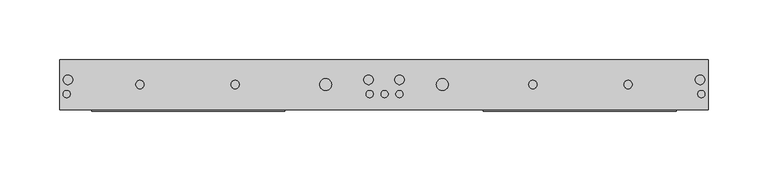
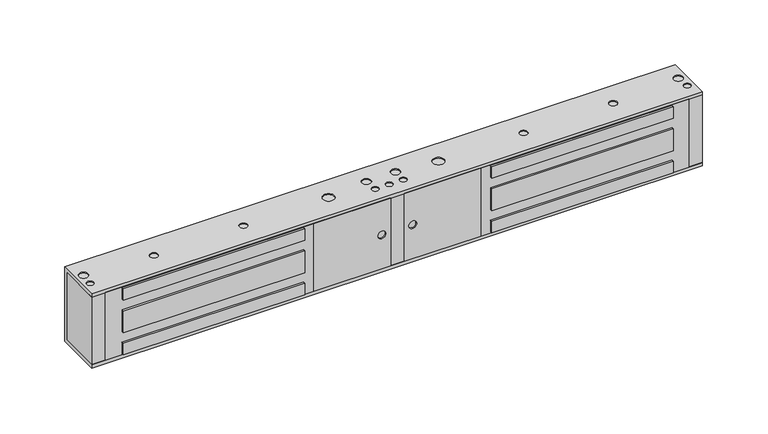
"""IFC4 building model written with IfcOpenShell, lengths in millimetres: proxy geometry, Электромагнитный_замок_ML-395_Double_с_планкой_AccordTec_R19 : Электромагнитный_замок_ML-395_Double_с_планкой_AccordTec_R19."""

from ifc_helpers import new_model, si_unit, point, frame, frame_2d, origin, place, context, project, spatial, polyline, circle_curve, trimmed, segment, composite_curve, outline, extrude, source, transform, mapped, element, save
from ifc_brep_helpers import plane_surface, revolved_surface, advanced_brep


def generic_models_6a58f8de(model_context):
    return source(origin(), model_context, "Body", "SolidModel", [
        extrude(outline(polyline([(67.0, 266.7), (67.0, 198.0), (3.0, 198.0), (3.0, 266.7), (67.0, 266.7)]), holes=[composite_curve([segment(trimmed(circle_curve(frame_2d((35.0, 258.95)), 3.5), [point((35.0, 262.45))], [point((35.0, 255.45))], True, "CARTESIAN"), True, "CONTINUOUS"), segment(trimmed(circle_curve(frame_2d((35.0, 258.95)), 3.5), [point((35.0, 255.45))], [point((35.0, 262.45))], True, "CARTESIAN"), True, "CONTINUOUS")], self_intersect=False)]), frame((0.0, 0.0, 0.0), z_axis=(0.0, 1.0, 0.0), x_axis=(0.0, 0.0, 1.0)), (0.0, 0.0, 1.0), 1.0),
        extrude(outline(polyline([(67.0, 347.0), (67.0, 278.7), (3.0, 278.7), (3.0, 347.0), (67.0, 347.0)]), holes=[composite_curve([segment(trimmed(circle_curve(frame_2d((35.0, 286.45)), 3.5), [point((35.0, 289.95))], [point((35.0, 282.95))], True, "CARTESIAN"), True, "CONTINUOUS"), segment(trimmed(circle_curve(frame_2d((35.0, 286.45)), 3.5), [point((35.0, 282.95))], [point((35.0, 289.95))], True, "CARTESIAN"), True, "CONTINUOUS")], self_intersect=False)]), frame((0.0, 0.0, 0.0), z_axis=(0.0, 1.0, 0.0), x_axis=(0.0, 0.0, 1.0)), (0.0, 0.0, 1.0), 1.0),
        extrude(outline(polyline([(189.0, -1.5), (27.0, -1.5), (27.0, 1.0), (189.0, 1.0), (189.0, -1.5)])), frame((0.0, 0.0, 55.25), z_axis=(0.0, 0.0, 1.0), x_axis=(1.0, 0.0, 0.0)), (0.0, 0.0, 1.0), 11.0),
        extrude(outline(polyline([(189.0, -1.5), (27.0, -1.5), (27.0, 1.0), (189.0, 1.0), (189.0, -1.5)])), frame((0.0, 0.0, 24.75), z_axis=(0.0, 0.0, 1.0), x_axis=(1.0, 0.0, 0.0)), (0.0, 0.0, 1.0), 20.5),
        extrude(outline(polyline([(189.0, -1.5), (27.0, -1.5), (27.0, 1.0), (189.0, 1.0), (189.0, -1.5)])), frame((0.0, 0.0, 3.75), z_axis=(0.0, 0.0, 1.0), x_axis=(1.0, 0.0, 0.0)), (0.0, 0.0, 1.0), 11.0),
        extrude(outline(polyline([(518.0, -1.5), (356.0, -1.5), (356.0, 1.0), (518.0, 1.0), (518.0, -1.5)])), frame((0.0, 0.0, 55.25), z_axis=(0.0, 0.0, 1.0), x_axis=(1.0, 0.0, 0.0)), (0.0, 0.0, 1.0), 11.0),
        extrude(outline(polyline([(518.0, -1.5), (356.0, -1.5), (356.0, 1.0), (518.0, 1.0), (518.0, -1.5)])), frame((0.0, 0.0, 24.75), z_axis=(0.0, 0.0, 1.0), x_axis=(1.0, 0.0, 0.0)), (0.0, 0.0, 1.0), 20.5),
        extrude(outline(polyline([(518.0, -1.5), (356.0, -1.5), (356.0, 1.0), (518.0, 1.0), (518.0, -1.5)])), frame((0.0, 0.0, 3.75), z_axis=(0.0, 0.0, 1.0), x_axis=(1.0, 0.0, 0.0)), (0.0, 0.0, 1.0), 11.0),
        extrude(outline(polyline([(67.0, 198.0), (67.0, 12.0), (3.0, 12.0), (3.0, 198.0), (67.0, 198.0)]), holes=[polyline([(66.25, 27.0), (66.25, 189.0), (55.25, 189.0), (55.25, 27.0), (66.25, 27.0)]), polyline([(45.25, 27.0), (45.25, 189.0), (24.75, 189.0), (24.75, 27.0), (45.25, 27.0)]), polyline([(14.75, 27.0), (14.75, 189.0), (3.75, 189.0), (3.75, 27.0), (14.75, 27.0)])]), frame((0.0, 0.0, 0.0), z_axis=(0.0, 1.0, 0.0), x_axis=(0.0, 0.0, 1.0)), (0.0, 0.0, 1.0), 1.0),
        extrude(outline(polyline([(67.0, 533.0), (67.0, 347.0), (3.0, 347.0), (3.0, 533.0), (67.0, 533.0)]), holes=[polyline([(66.25, 356.0), (66.25, 518.0), (55.25, 518.0), (55.25, 356.0), (66.25, 356.0)]), polyline([(24.75, 356.0), (45.25, 356.0), (45.25, 518.0), (24.75, 518.0), (24.75, 356.0)]), polyline([(14.75, 356.0), (14.75, 518.0), (3.75, 518.0), (3.75, 356.0), (14.75, 356.0)])]), frame((0.0, 0.0, 0.0), z_axis=(0.0, 1.0, 0.0), x_axis=(0.0, 0.0, 1.0)), (0.0, 0.0, 1.0), 1.0),
        advanced_brep(
        [(545.0, 0.0, 0.0), (545.0, 42.0, 0.0), (545.0, 42.0, 70.0), (545.0, 0.0, 70.0), (545.0, 0.0, 67.0), (545.0, 39.0, 67.0), (545.0, 39.0, 3.0), (545.0, 0.0, 3.0), (0.0, 0.0, 0.0), (0.0, 0.0, 3.0), (0.0, 39.0, 3.0), (0.0, 39.0, 67.0), (0.0, 0.0, 67.0), (0.0, 0.0, 70.0), (0.0, 42.0, 70.0), (0.0, 42.0, 0.0), (3.0, 25.0, 0.0), (11.0, 25.0, 0.0), (4.0, 8.5, 0.0), (10.0, 8.5, 0.0), (64.0, 21.0, 0.0), (71.0, 21.0, 0.0), (144.0, 21.0, 0.0), (151.0, 21.0, 0.0), (220.5, 21.0, 0.0), (226.5, 21.0, 0.0), (257.5, 13.0, 0.0), (263.5, 13.0, 0.0), (270.0, 13.0, 0.0), (276.0, 13.0, 0.0), (282.5, 13.0, 0.0), (288.5, 13.0, 0.0), (255.5, 25.0, 0.0), (263.5, 25.0, 0.0), (281.5, 25.0, 0.0), (289.5, 25.0, 0.0), (318.5, 21.0, 0.0), (324.5, 21.0, 0.0), (394.0, 21.0, 0.0), (401.0, 21.0, 0.0), (474.0, 21.0, 0.0), (481.0, 21.0, 0.0), (534.0, 25.0, 0.0), (542.0, 25.0, 0.0), (535.0, 8.5, 0.0), (541.0, 8.5, 0.0), (144.0, 21.0, 70.0), (151.0, 21.0, 70.0), (218.5, 21.0, 70.0), (228.5, 21.0, 70.0), (255.5, 25.0, 70.0), (263.5, 25.0, 70.0), (257.5, 13.0, 70.0), (263.5, 13.0, 70.0), (270.0, 13.0, 70.0), (276.0, 13.0, 70.0), (281.5, 25.0, 70.0), (289.5, 25.0, 70.0), (282.5, 13.0, 70.0), (288.5, 13.0, 70.0), (316.5, 21.0, 70.0), (326.5, 21.0, 70.0), (394.0, 21.0, 70.0), (401.0, 21.0, 70.0), (474.0, 21.0, 70.0), (481.0, 21.0, 70.0), (536.0, 13.0, 70.0), (542.0, 13.0, 70.0), (534.0, 25.0, 70.0), (542.0, 25.0, 70.0), (64.0, 21.0, 70.0), (71.0, 21.0, 70.0), (3.0, 25.0, 70.0), (11.0, 25.0, 70.0), (3.0, 13.0, 70.0), (9.0, 13.0, 70.0), (12.0, 0.0, 67.0), (198.0, 0.0, 67.0), (266.7, 0.0, 67.0), (278.7, 0.0, 67.0), (347.0, 0.0, 67.0), (533.0, 0.0, 67.0), (12.0, 0.0, 3.0), (198.0, 0.0, 3.0), (266.7, 0.0, 3.0), (278.7, 0.0, 3.0), (347.0, 0.0, 3.0), (533.0, 0.0, 3.0), (3.0, 25.0, 1.0), (11.0, 25.0, 1.0), (4.0, 8.5, 1.0), (10.0, 8.5, 1.0), (64.0, 21.0, 1.0), (71.0, 21.0, 1.0), (144.0, 21.0, 1.0), (151.0, 21.0, 1.0), (220.5, 21.0, 1.0), (226.5, 21.0, 1.0), (257.5, 13.0, 1.0), (263.5, 13.0, 1.0), (270.0, 13.0, 1.0), (276.0, 13.0, 1.0), (282.5, 13.0, 1.0), (288.5, 13.0, 1.0), (255.5, 25.0, 1.0), (263.5, 25.0, 1.0), (281.5, 25.0, 1.0), (289.5, 25.0, 1.0), (318.5, 21.0, 1.0), (324.5, 21.0, 1.0), (394.0, 21.0, 1.0), (401.0, 21.0, 1.0), (474.0, 21.0, 1.0), (481.0, 21.0, 1.0), (534.0, 25.0, 1.0), (542.0, 25.0, 1.0), (535.0, 8.5, 1.0), (541.0, 8.5, 1.0), (144.0, 21.0, 69.0), (151.0, 21.0, 69.0), (218.5, 21.0, 69.0), (228.5, 21.0, 69.0), (255.5, 25.0, 69.0), (263.5, 25.0, 69.0), (257.5, 13.0, 69.0), (263.5, 13.0, 69.0), (270.0, 13.0, 69.0), (276.0, 13.0, 69.0), (281.5, 25.0, 69.0), (289.5, 25.0, 69.0), (282.5, 13.0, 69.0), (288.5, 13.0, 69.0), (316.5, 21.0, 69.0), (326.5, 21.0, 69.0), (394.0, 21.0, 69.0), (401.0, 21.0, 69.0), (474.0, 21.0, 69.0), (481.0, 21.0, 69.0), (536.0, 13.0, 69.0), (542.0, 13.0, 69.0), (534.0, 25.0, 69.0), (542.0, 25.0, 69.0), (64.0, 21.0, 69.0), (71.0, 21.0, 69.0), (3.0, 25.0, 69.0), (11.0, 25.0, 69.0), (3.0, 13.0, 69.0), (9.0, 13.0, 69.0)],
        [
            (0, 1),
            (1, 2),
            (2, 3),
            (3, 4),
            (4, 5),
            (5, 6),
            (6, 7),
            (7, 0),
            (8, 9),
            (9, 10),
            (10, 11),
            (11, 12),
            (12, 13),
            (13, 14),
            (14, 15),
            (15, 8),
            (0, 8),
            (15, 1),
            (16, 17, circle_curve(frame((7.0, 25.0, 0.0), z_axis=(0.0, 0.0, 1.0), x_axis=(1.0, 0.0, 0.0)), 4.0)),
            (17, 16, circle_curve(frame((7.0, 25.0, 0.0), z_axis=(0.0, 0.0, 1.0), x_axis=(1.0, 0.0, 0.0)), 4.0)),
            (18, 19, circle_curve(frame((7.0, 8.5, 0.0), z_axis=(0.0, 0.0, 1.0), x_axis=(1.0, 0.0, 0.0)), 3.0)),
            (19, 18, circle_curve(frame((7.0, 8.5, 0.0), z_axis=(0.0, 0.0, 1.0), x_axis=(1.0, 0.0, 0.0)), 3.0)),
            (20, 21, circle_curve(frame((67.5, 21.0, 0.0), z_axis=(0.0, 0.0, 1.0), x_axis=(1.0, 0.0, 0.0)), 3.5)),
            (21, 20, circle_curve(frame((67.5, 21.0, 0.0), z_axis=(0.0, 0.0, 1.0), x_axis=(1.0, 0.0, 0.0)), 3.5)),
            (22, 23, circle_curve(frame((147.5, 21.0, 0.0), z_axis=(0.0, 0.0, 1.0), x_axis=(1.0, 0.0, 0.0)), 3.5)),
            (23, 22, circle_curve(frame((147.5, 21.0, 0.0), z_axis=(0.0, 0.0, 1.0), x_axis=(1.0, 0.0, 0.0)), 3.5)),
            (24, 25, circle_curve(frame((223.5, 21.0, 0.0), z_axis=(0.0, 0.0, 1.0), x_axis=(1.0, 0.0, 0.0)), 3.0)),
            (25, 24, circle_curve(frame((223.5, 21.0, 0.0), z_axis=(0.0, 0.0, 1.0), x_axis=(1.0, 0.0, 0.0)), 3.0)),
            (26, 27, circle_curve(frame((260.5, 13.0, 0.0), z_axis=(0.0, 0.0, 1.0), x_axis=(1.0, 0.0, 0.0)), 3.0)),
            (27, 26, circle_curve(frame((260.5, 13.0, 0.0), z_axis=(0.0, 0.0, 1.0), x_axis=(1.0, 0.0, 0.0)), 3.0)),
            (28, 29, circle_curve(frame((273.0, 13.0, 0.0), z_axis=(0.0, 0.0, 1.0), x_axis=(1.0, 0.0, 0.0)), 3.0)),
            (29, 28, circle_curve(frame((273.0, 13.0, 0.0), z_axis=(0.0, 0.0, 1.0), x_axis=(1.0, 0.0, 0.0)), 3.0)),
            (30, 31, circle_curve(frame((285.5, 13.0, 0.0), z_axis=(0.0, 0.0, 1.0), x_axis=(1.0, 0.0, 0.0)), 3.0)),
            (31, 30, circle_curve(frame((285.5, 13.0, 0.0), z_axis=(0.0, 0.0, 1.0), x_axis=(1.0, 0.0, 0.0)), 3.0)),
            (32, 33, circle_curve(frame((259.5, 25.0, 0.0), z_axis=(0.0, 0.0, 1.0), x_axis=(1.0, 0.0, 0.0)), 4.0)),
            (33, 32, circle_curve(frame((259.5, 25.0, 0.0), z_axis=(0.0, 0.0, 1.0), x_axis=(1.0, 0.0, 0.0)), 4.0)),
            (34, 35, circle_curve(frame((285.5, 25.0, 0.0), z_axis=(0.0, 0.0, 1.0), x_axis=(1.0, 0.0, 0.0)), 4.0)),
            (35, 34, circle_curve(frame((285.5, 25.0, 0.0), z_axis=(0.0, 0.0, 1.0), x_axis=(1.0, 0.0, 0.0)), 4.0)),
            (36, 37, circle_curve(frame((321.5, 21.0, 0.0), z_axis=(0.0, 0.0, 1.0), x_axis=(1.0, 0.0, 0.0)), 3.0)),
            (37, 36, circle_curve(frame((321.5, 21.0, 0.0), z_axis=(0.0, 0.0, 1.0), x_axis=(1.0, 0.0, 0.0)), 3.0)),
            (38, 39, circle_curve(frame((397.5, 21.0, 0.0), z_axis=(0.0, 0.0, 1.0), x_axis=(1.0, 0.0, 0.0)), 3.5)),
            (39, 38, circle_curve(frame((397.5, 21.0, 0.0), z_axis=(0.0, 0.0, 1.0), x_axis=(1.0, 0.0, 0.0)), 3.5)),
            (40, 41, circle_curve(frame((477.5, 21.0, 0.0), z_axis=(0.0, 0.0, 1.0), x_axis=(1.0, 0.0, 0.0)), 3.5)),
            (41, 40, circle_curve(frame((477.5, 21.0, 0.0), z_axis=(0.0, 0.0, 1.0), x_axis=(1.0, 0.0, 0.0)), 3.5)),
            (42, 43, circle_curve(frame((538.0, 25.0, 0.0), z_axis=(0.0, 0.0, 1.0), x_axis=(1.0, 0.0, 0.0)), 4.0)),
            (43, 42, circle_curve(frame((538.0, 25.0, 0.0), z_axis=(0.0, 0.0, 1.0), x_axis=(1.0, 0.0, 0.0)), 4.0)),
            (44, 45, circle_curve(frame((538.0, 8.5, 0.0), z_axis=(0.0, 0.0, 1.0), x_axis=(1.0, 0.0, 0.0)), 3.0)),
            (45, 44, circle_curve(frame((538.0, 8.5, 0.0), z_axis=(0.0, 0.0, 1.0), x_axis=(1.0, 0.0, 0.0)), 3.0)),
            (14, 2),
            (13, 3),
            (46, 47, circle_curve(frame((147.5, 21.0, 70.0), z_axis=(0.0, 0.0, -1.0), x_axis=(1.0, 0.0, 0.0)), 3.5)),
            (47, 46, circle_curve(frame((147.5, 21.0, 70.0), z_axis=(0.0, 0.0, -1.0), x_axis=(1.0, 0.0, 0.0)), 3.5)),
            (48, 49, circle_curve(frame((223.5, 21.0, 70.0), z_axis=(0.0, 0.0, -1.0), x_axis=(1.0, 0.0, 0.0)), 5.0)),
            (49, 48, circle_curve(frame((223.5, 21.0, 70.0), z_axis=(0.0, 0.0, -1.0), x_axis=(1.0, 0.0, 0.0)), 5.0)),
            (50, 51, circle_curve(frame((259.5, 25.0, 70.0), z_axis=(0.0, 0.0, -1.0), x_axis=(1.0, 0.0, 0.0)), 4.0)),
            (51, 50, circle_curve(frame((259.5, 25.0, 70.0), z_axis=(0.0, 0.0, -1.0), x_axis=(1.0, 0.0, 0.0)), 4.0)),
            (52, 53, circle_curve(frame((260.5, 13.0, 70.0), z_axis=(0.0, 0.0, -1.0), x_axis=(1.0, 0.0, 0.0)), 3.0)),
            (53, 52, circle_curve(frame((260.5, 13.0, 70.0), z_axis=(0.0, 0.0, -1.0), x_axis=(1.0, 0.0, 0.0)), 3.0)),
            (54, 55, circle_curve(frame((273.0, 13.0, 70.0), z_axis=(0.0, 0.0, -1.0), x_axis=(1.0, 0.0, 0.0)), 3.0)),
            (55, 54, circle_curve(frame((273.0, 13.0, 70.0), z_axis=(0.0, 0.0, -1.0), x_axis=(1.0, 0.0, 0.0)), 3.0)),
            (56, 57, circle_curve(frame((285.5, 25.0, 70.0), z_axis=(0.0, 0.0, -1.0), x_axis=(1.0, 0.0, 0.0)), 4.0)),
            (57, 56, circle_curve(frame((285.5, 25.0, 70.0), z_axis=(0.0, 0.0, -1.0), x_axis=(1.0, 0.0, 0.0)), 4.0)),
            (58, 59, circle_curve(frame((285.5, 13.0, 70.0), z_axis=(0.0, 0.0, -1.0), x_axis=(1.0, 0.0, 0.0)), 3.0)),
            (59, 58, circle_curve(frame((285.5, 13.0, 70.0), z_axis=(0.0, 0.0, -1.0), x_axis=(1.0, 0.0, 0.0)), 3.0)),
            (60, 61, circle_curve(frame((321.5, 21.0, 70.0), z_axis=(0.0, 0.0, -1.0), x_axis=(1.0, 0.0, 0.0)), 5.0)),
            (61, 60, circle_curve(frame((321.5, 21.0, 70.0), z_axis=(0.0, 0.0, -1.0), x_axis=(1.0, 0.0, 0.0)), 5.0)),
            (62, 63, circle_curve(frame((397.5, 21.0, 70.0), z_axis=(0.0, 0.0, -1.0), x_axis=(1.0, 0.0, 0.0)), 3.5)),
            (63, 62, circle_curve(frame((397.5, 21.0, 70.0), z_axis=(0.0, 0.0, -1.0), x_axis=(1.0, 0.0, 0.0)), 3.5)),
            (64, 65, circle_curve(frame((477.5, 21.0, 70.0), z_axis=(0.0, 0.0, -1.0), x_axis=(1.0, 0.0, 0.0)), 3.5)),
            (65, 64, circle_curve(frame((477.5, 21.0, 70.0), z_axis=(0.0, 0.0, -1.0), x_axis=(1.0, 0.0, 0.0)), 3.5)),
            (66, 67, circle_curve(frame((539.0, 13.0, 70.0), z_axis=(0.0, 0.0, -1.0), x_axis=(1.0, 0.0, 0.0)), 3.0)),
            (67, 66, circle_curve(frame((539.0, 13.0, 70.0), z_axis=(0.0, 0.0, -1.0), x_axis=(1.0, 0.0, 0.0)), 3.0)),
            (68, 69, circle_curve(frame((538.0, 25.0, 70.0), z_axis=(0.0, 0.0, -1.0), x_axis=(1.0, 0.0, 0.0)), 4.0)),
            (69, 68, circle_curve(frame((538.0, 25.0, 70.0), z_axis=(0.0, 0.0, -1.0), x_axis=(1.0, 0.0, 0.0)), 4.0)),
            (70, 71, circle_curve(frame((67.5, 21.0, 70.0), z_axis=(0.0, 0.0, -1.0), x_axis=(1.0, 0.0, 0.0)), 3.5)),
            (71, 70, circle_curve(frame((67.5, 21.0, 70.0), z_axis=(0.0, 0.0, -1.0), x_axis=(1.0, 0.0, 0.0)), 3.5)),
            (72, 73, circle_curve(frame((7.0, 25.0, 70.0), z_axis=(0.0, 0.0, -1.0), x_axis=(1.0, 0.0, 0.0)), 4.0)),
            (73, 72, circle_curve(frame((7.0, 25.0, 70.0), z_axis=(0.0, 0.0, -1.0), x_axis=(1.0, 0.0, 0.0)), 4.0)),
            (74, 75, circle_curve(frame((6.0, 13.0, 70.0), z_axis=(0.0, 0.0, -1.0), x_axis=(1.0, 0.0, 0.0)), 3.0)),
            (75, 74, circle_curve(frame((6.0, 13.0, 70.0), z_axis=(0.0, 0.0, -1.0), x_axis=(1.0, 0.0, 0.0)), 3.0)),
            (12, 76),
            (76, 77),
            (77, 78),
            (78, 79),
            (79, 80),
            (80, 81),
            (81, 4),
            (11, 5),
            (10, 6),
            (9, 82),
            (82, 83),
            (83, 84),
            (84, 85),
            (85, 86),
            (86, 87),
            (87, 7),
            (88, 89, circle_curve(frame((7.0, 25.0, 1.0), z_axis=(0.0, 0.0, -1.0), x_axis=(1.0, 0.0, 0.0)), 4.0)),
            (89, 88, circle_curve(frame((7.0, 25.0, 1.0), z_axis=(0.0, 0.0, -1.0), x_axis=(1.0, 0.0, 0.0)), 4.0)),
            (90, 91, circle_curve(frame((7.0, 8.5, 1.0), z_axis=(0.0, 0.0, -1.0), x_axis=(1.0, 0.0, 0.0)), 3.0)),
            (91, 90, circle_curve(frame((7.0, 8.5, 1.0), z_axis=(0.0, 0.0, -1.0), x_axis=(1.0, 0.0, 0.0)), 3.0)),
            (92, 93, circle_curve(frame((67.5, 21.0, 1.0), z_axis=(0.0, 0.0, -1.0), x_axis=(1.0, 0.0, 0.0)), 3.5)),
            (93, 92, circle_curve(frame((67.5, 21.0, 1.0), z_axis=(0.0, 0.0, -1.0), x_axis=(1.0, 0.0, 0.0)), 3.5)),
            (94, 95, circle_curve(frame((147.5, 21.0, 1.0), z_axis=(0.0, 0.0, -1.0), x_axis=(1.0, 0.0, 0.0)), 3.5)),
            (95, 94, circle_curve(frame((147.5, 21.0, 1.0), z_axis=(0.0, 0.0, -1.0), x_axis=(1.0, 0.0, 0.0)), 3.5)),
            (96, 97, circle_curve(frame((223.5, 21.0, 1.0), z_axis=(0.0, 0.0, -1.0), x_axis=(1.0, 0.0, 0.0)), 3.0)),
            (97, 96, circle_curve(frame((223.5, 21.0, 1.0), z_axis=(0.0, 0.0, -1.0), x_axis=(1.0, 0.0, 0.0)), 3.0)),
            (98, 99, circle_curve(frame((260.5, 13.0, 1.0), z_axis=(0.0, 0.0, -1.0), x_axis=(1.0, 0.0, 0.0)), 3.0)),
            (99, 98, circle_curve(frame((260.5, 13.0, 1.0), z_axis=(0.0, 0.0, -1.0), x_axis=(1.0, 0.0, 0.0)), 3.0)),
            (100, 101, circle_curve(frame((273.0, 13.0, 1.0), z_axis=(0.0, 0.0, -1.0), x_axis=(1.0, 0.0, 0.0)), 3.0)),
            (101, 100, circle_curve(frame((273.0, 13.0, 1.0), z_axis=(0.0, 0.0, -1.0), x_axis=(1.0, 0.0, 0.0)), 3.0)),
            (102, 103, circle_curve(frame((285.5, 13.0, 1.0), z_axis=(0.0, 0.0, -1.0), x_axis=(1.0, 0.0, 0.0)), 3.0)),
            (103, 102, circle_curve(frame((285.5, 13.0, 1.0), z_axis=(0.0, 0.0, -1.0), x_axis=(1.0, 0.0, 0.0)), 3.0)),
            (104, 105, circle_curve(frame((259.5, 25.0, 1.0), z_axis=(0.0, 0.0, -1.0), x_axis=(1.0, 0.0, 0.0)), 4.0)),
            (105, 104, circle_curve(frame((259.5, 25.0, 1.0), z_axis=(0.0, 0.0, -1.0), x_axis=(1.0, 0.0, 0.0)), 4.0)),
            (106, 107, circle_curve(frame((285.5, 25.0, 1.0), z_axis=(0.0, 0.0, -1.0), x_axis=(1.0, 0.0, 0.0)), 4.0)),
            (107, 106, circle_curve(frame((285.5, 25.0, 1.0), z_axis=(0.0, 0.0, -1.0), x_axis=(1.0, 0.0, 0.0)), 4.0)),
            (108, 109, circle_curve(frame((321.5, 21.0, 1.0), z_axis=(0.0, 0.0, -1.0), x_axis=(1.0, 0.0, 0.0)), 3.0)),
            (109, 108, circle_curve(frame((321.5, 21.0, 1.0), z_axis=(0.0, 0.0, -1.0), x_axis=(1.0, 0.0, 0.0)), 3.0)),
            (110, 111, circle_curve(frame((397.5, 21.0, 1.0), z_axis=(0.0, 0.0, -1.0), x_axis=(1.0, 0.0, 0.0)), 3.5)),
            (111, 110, circle_curve(frame((397.5, 21.0, 1.0), z_axis=(0.0, 0.0, -1.0), x_axis=(1.0, 0.0, 0.0)), 3.5)),
            (112, 113, circle_curve(frame((477.5, 21.0, 1.0), z_axis=(0.0, 0.0, -1.0), x_axis=(1.0, 0.0, 0.0)), 3.5)),
            (113, 112, circle_curve(frame((477.5, 21.0, 1.0), z_axis=(0.0, 0.0, -1.0), x_axis=(1.0, 0.0, 0.0)), 3.5)),
            (114, 115, circle_curve(frame((538.0, 25.0, 1.0), z_axis=(0.0, 0.0, -1.0), x_axis=(1.0, 0.0, 0.0)), 4.0)),
            (115, 114, circle_curve(frame((538.0, 25.0, 1.0), z_axis=(0.0, 0.0, -1.0), x_axis=(1.0, 0.0, 0.0)), 4.0)),
            (116, 117, circle_curve(frame((538.0, 8.5, 1.0), z_axis=(0.0, 0.0, -1.0), x_axis=(1.0, 0.0, 0.0)), 3.0)),
            (117, 116, circle_curve(frame((538.0, 8.5, 1.0), z_axis=(0.0, 0.0, -1.0), x_axis=(1.0, 0.0, 0.0)), 3.0)),
            (89, 17),
            (16, 88),
            (91, 19),
            (18, 90),
            (93, 21),
            (20, 92),
            (95, 23),
            (22, 94),
            (97, 25),
            (24, 96),
            (99, 27),
            (26, 98),
            (101, 29),
            (28, 100),
            (103, 31),
            (30, 102),
            (105, 33),
            (32, 104),
            (107, 35),
            (34, 106),
            (109, 37),
            (36, 108),
            (111, 39),
            (38, 110),
            (113, 41),
            (40, 112),
            (115, 43),
            (42, 114),
            (117, 45),
            (44, 116),
            (118, 119, circle_curve(frame((147.5, 21.0, 69.0), z_axis=(0.0, 0.0, 1.0), x_axis=(1.0, 0.0, 0.0)), 3.5)),
            (119, 118, circle_curve(frame((147.5, 21.0, 69.0), z_axis=(0.0, 0.0, 1.0), x_axis=(1.0, 0.0, 0.0)), 3.5)),
            (120, 121, circle_curve(frame((223.5, 21.0, 69.0), z_axis=(0.0, 0.0, 1.0), x_axis=(1.0, 0.0, 0.0)), 5.0)),
            (121, 120, circle_curve(frame((223.5, 21.0, 69.0), z_axis=(0.0, 0.0, 1.0), x_axis=(1.0, 0.0, 0.0)), 5.0)),
            (122, 123, circle_curve(frame((259.5, 25.0, 69.0), z_axis=(0.0, 0.0, 1.0), x_axis=(1.0, 0.0, 0.0)), 4.0)),
            (123, 122, circle_curve(frame((259.5, 25.0, 69.0), z_axis=(0.0, 0.0, 1.0), x_axis=(1.0, 0.0, 0.0)), 4.0)),
            (124, 125, circle_curve(frame((260.5, 13.0, 69.0), z_axis=(0.0, 0.0, 1.0), x_axis=(1.0, 0.0, 0.0)), 3.0)),
            (125, 124, circle_curve(frame((260.5, 13.0, 69.0), z_axis=(0.0, 0.0, 1.0), x_axis=(1.0, 0.0, 0.0)), 3.0)),
            (126, 127, circle_curve(frame((273.0, 13.0, 69.0), z_axis=(0.0, 0.0, 1.0), x_axis=(1.0, 0.0, 0.0)), 3.0)),
            (127, 126, circle_curve(frame((273.0, 13.0, 69.0), z_axis=(0.0, 0.0, 1.0), x_axis=(1.0, 0.0, 0.0)), 3.0)),
            (128, 129, circle_curve(frame((285.5, 25.0, 69.0), z_axis=(0.0, 0.0, 1.0), x_axis=(1.0, 0.0, 0.0)), 4.0)),
            (129, 128, circle_curve(frame((285.5, 25.0, 69.0), z_axis=(0.0, 0.0, 1.0), x_axis=(1.0, 0.0, 0.0)), 4.0)),
            (130, 131, circle_curve(frame((285.5, 13.0, 69.0), z_axis=(0.0, 0.0, 1.0), x_axis=(1.0, 0.0, 0.0)), 3.0)),
            (131, 130, circle_curve(frame((285.5, 13.0, 69.0), z_axis=(0.0, 0.0, 1.0), x_axis=(1.0, 0.0, 0.0)), 3.0)),
            (132, 133, circle_curve(frame((321.5, 21.0, 69.0), z_axis=(0.0, 0.0, 1.0), x_axis=(1.0, 0.0, 0.0)), 5.0)),
            (133, 132, circle_curve(frame((321.5, 21.0, 69.0), z_axis=(0.0, 0.0, 1.0), x_axis=(1.0, 0.0, 0.0)), 5.0)),
            (134, 135, circle_curve(frame((397.5, 21.0, 69.0), z_axis=(0.0, 0.0, 1.0), x_axis=(1.0, 0.0, 0.0)), 3.5)),
            (135, 134, circle_curve(frame((397.5, 21.0, 69.0), z_axis=(0.0, 0.0, 1.0), x_axis=(1.0, 0.0, 0.0)), 3.5)),
            (136, 137, circle_curve(frame((477.5, 21.0, 69.0), z_axis=(0.0, 0.0, 1.0), x_axis=(1.0, 0.0, 0.0)), 3.5)),
            (137, 136, circle_curve(frame((477.5, 21.0, 69.0), z_axis=(0.0, 0.0, 1.0), x_axis=(1.0, 0.0, 0.0)), 3.5)),
            (138, 139, circle_curve(frame((539.0, 13.0, 69.0), z_axis=(0.0, 0.0, 1.0), x_axis=(1.0, 0.0, 0.0)), 3.0)),
            (139, 138, circle_curve(frame((539.0, 13.0, 69.0), z_axis=(0.0, 0.0, 1.0), x_axis=(1.0, 0.0, 0.0)), 3.0)),
            (140, 141, circle_curve(frame((538.0, 25.0, 69.0), z_axis=(0.0, 0.0, 1.0), x_axis=(1.0, 0.0, 0.0)), 4.0)),
            (141, 140, circle_curve(frame((538.0, 25.0, 69.0), z_axis=(0.0, 0.0, 1.0), x_axis=(1.0, 0.0, 0.0)), 4.0)),
            (142, 143, circle_curve(frame((67.5, 21.0, 69.0), z_axis=(0.0, 0.0, 1.0), x_axis=(1.0, 0.0, 0.0)), 3.5)),
            (143, 142, circle_curve(frame((67.5, 21.0, 69.0), z_axis=(0.0, 0.0, 1.0), x_axis=(1.0, 0.0, 0.0)), 3.5)),
            (144, 145, circle_curve(frame((7.0, 25.0, 69.0), z_axis=(0.0, 0.0, 1.0), x_axis=(1.0, 0.0, 0.0)), 4.0)),
            (145, 144, circle_curve(frame((7.0, 25.0, 69.0), z_axis=(0.0, 0.0, 1.0), x_axis=(1.0, 0.0, 0.0)), 4.0)),
            (146, 147, circle_curve(frame((6.0, 13.0, 69.0), z_axis=(0.0, 0.0, 1.0), x_axis=(1.0, 0.0, 0.0)), 3.0)),
            (147, 146, circle_curve(frame((6.0, 13.0, 69.0), z_axis=(0.0, 0.0, 1.0), x_axis=(1.0, 0.0, 0.0)), 3.0)),
            (119, 47),
            (46, 118),
            (121, 49),
            (48, 120),
            (123, 51),
            (50, 122),
            (125, 53),
            (52, 124),
            (127, 55),
            (54, 126),
            (129, 57),
            (56, 128),
            (131, 59),
            (58, 130),
            (133, 61),
            (60, 132),
            (135, 63),
            (62, 134),
            (137, 65),
            (64, 136),
            (139, 67),
            (66, 138),
            (141, 69),
            (68, 140),
            (143, 71),
            (70, 142),
            (145, 73),
            (72, 144),
            (147, 75),
            (74, 146),
        ],
        [
            plane_surface(frame((545.0, 0.0, 0.0), z_axis=(1.0, 0.0, 0.0), x_axis=(0.0, 1.0, 0.0))),
            plane_surface(frame((0.0, 0.0, 0.0), z_axis=(-1.0, 0.0, 0.0), x_axis=(0.0, -1.0, 0.0))),
            plane_surface(frame((545.0, 0.0, 0.0), z_axis=(0.0, 0.0, -1.0), x_axis=(-1.0, 0.0, 0.0))),
            plane_surface(frame((545.0, 42.0, 0.0), z_axis=(0.0, 1.0, 0.0), x_axis=(-1.0, 0.0, 0.0))),
            plane_surface(frame((545.0, 42.0, 70.0), z_axis=(0.0, 0.0, 1.0), x_axis=(-1.0, 0.0, 0.0))),
            plane_surface(frame((545.0, 0.0, 70.0), z_axis=(0.0, -1.0, 0.0), x_axis=(-1.0, 0.0, 0.0))),
            plane_surface(frame((545.0, 0.0, 67.0), z_axis=(0.0, 0.0, -1.0), x_axis=(-1.0, 0.0, 0.0))),
            plane_surface(frame((545.0, 39.0, 67.0), z_axis=(0.0, -1.0, 0.0), x_axis=(-1.0, 0.0, 0.0))),
            plane_surface(frame((545.0, 39.0, 3.0), z_axis=(0.0, 0.0, 1.0), x_axis=(-1.0, 0.0, 0.0))),
            plane_surface(frame((545.0, 0.0, 3.0), z_axis=(0.0, -1.0, 0.0), x_axis=(-1.0, 0.0, 0.0))),
            plane_surface(frame((11.0, 25.0, 1.0), z_axis=(0.0, 0.0, -1.0), x_axis=(0.0, 1.0, 0.0))),
            revolved_surface(polyline([(11.0, 25.0, 1.0), (11.0, 25.0, 0.0)]), (7.0, 25.0, -1.0), (0.0, 0.0, 1.0)),
            revolved_surface(polyline([(10.0, 8.5, 1.0), (10.0, 8.5, 0.0)]), (7.0, 8.5, 0.0), (0.0, 0.0, 1.0)),
            revolved_surface(polyline([(71.0, 21.0, 1.0), (71.0, 21.0, 0.0)]), (67.5, 21.0, 0.0), (0.0, 0.0, 1.0)),
            revolved_surface(polyline([(151.0, 21.0, 1.0), (151.0, 21.0, 0.0)]), (147.5, 21.0, 0.0), (0.0, 0.0, 1.0)),
            revolved_surface(polyline([(226.5, 21.0, 1.0), (226.5, 21.0, 0.0)]), (223.5, 21.0, 0.0), (0.0, 0.0, 1.0)),
            revolved_surface(polyline([(263.5, 13.0, 1.0), (263.5, 13.0, 0.0)]), (260.5, 13.0, 0.0), (0.0, 0.0, 1.0)),
            revolved_surface(polyline([(276.0, 13.0, 1.0), (276.0, 13.0, 0.0)]), (273.0, 13.0, 0.0), (0.0, 0.0, 1.0)),
            revolved_surface(polyline([(288.5, 13.0, 1.0), (288.5, 13.0, 0.0)]), (285.5, 13.0, 0.0), (0.0, 0.0, 1.0)),
            revolved_surface(polyline([(263.5, 25.0, 1.0), (263.5, 25.0, 0.0)]), (259.5, 25.0, 0.0), (0.0, 0.0, 1.0)),
            revolved_surface(polyline([(289.5, 25.0, 1.0), (289.5, 25.0, 0.0)]), (285.5, 25.0, 0.0), (0.0, 0.0, 1.0)),
            revolved_surface(polyline([(324.5, 21.0, 1.0), (324.5, 21.0, 0.0)]), (321.5, 21.0, 0.0), (0.0, 0.0, 1.0)),
            revolved_surface(polyline([(401.0, 21.0, 1.0), (401.0, 21.0, 0.0)]), (397.5, 21.0, 0.0), (0.0, 0.0, 1.0)),
            revolved_surface(polyline([(481.0, 21.0, 1.0), (481.0, 21.0, 0.0)]), (477.5, 21.0, 0.0), (0.0, 0.0, 1.0)),
            revolved_surface(polyline([(542.0, 25.0, 1.0), (542.0, 25.0, 0.0)]), (538.0, 25.0, 0.0), (0.0, 0.0, 1.0)),
            revolved_surface(polyline([(541.0, 8.5, 1.0), (541.0, 8.5, 0.0)]), (538.0, 8.5, 0.0), (0.0, 0.0, 1.0)),
            plane_surface(frame((151.0, 21.0, 69.0), z_axis=(0.0, 0.0, 1.0), x_axis=(0.0, -1.0, 0.0))),
            revolved_surface(polyline([(151.0, 21.0, 69.0), (151.0, 21.0, 70.0)]), (147.5, 21.0, 71.0), (0.0, 0.0, -1.0)),
            revolved_surface(polyline([(228.5, 21.0, 69.0), (228.5, 21.0, 70.0)]), (223.5, 21.0, 70.0), (0.0, 0.0, -1.0)),
            revolved_surface(polyline([(263.5, 25.0, 69.0), (263.5, 25.0, 70.0)]), (259.5, 25.0, 70.0), (0.0, 0.0, -1.0)),
            revolved_surface(polyline([(263.5, 13.0, 69.0), (263.5, 13.0, 70.0)]), (260.5, 13.0, 70.0), (0.0, 0.0, -1.0)),
            revolved_surface(polyline([(276.0, 13.0, 69.0), (276.0, 13.0, 70.0)]), (273.0, 13.0, 70.0), (0.0, 0.0, -1.0)),
            revolved_surface(polyline([(289.5, 25.0, 69.0), (289.5, 25.0, 70.0)]), (285.5, 25.0, 70.0), (0.0, 0.0, -1.0)),
            revolved_surface(polyline([(288.5, 13.0, 69.0), (288.5, 13.0, 70.0)]), (285.5, 13.0, 70.0), (0.0, 0.0, -1.0)),
            revolved_surface(polyline([(326.5, 21.0, 69.0), (326.5, 21.0, 70.0)]), (321.5, 21.0, 70.0), (0.0, 0.0, -1.0)),
            revolved_surface(polyline([(401.0, 21.0, 69.0), (401.0, 21.0, 70.0)]), (397.5, 21.0, 70.0), (0.0, 0.0, -1.0)),
            revolved_surface(polyline([(481.0, 21.0, 69.0), (481.0, 21.0, 70.0)]), (477.5, 21.0, 70.0), (0.0, 0.0, -1.0)),
            revolved_surface(polyline([(542.0, 13.0, 69.0), (542.0, 13.0, 70.0)]), (539.0, 13.0, 70.0), (0.0, 0.0, -1.0)),
            revolved_surface(polyline([(542.0, 25.0, 69.0), (542.0, 25.0, 70.0)]), (538.0, 25.0, 70.0), (0.0, 0.0, -1.0)),
            revolved_surface(polyline([(71.0, 21.0, 69.0), (71.0, 21.0, 70.0)]), (67.5, 21.0, 70.0), (0.0, 0.0, -1.0)),
            revolved_surface(polyline([(11.0, 25.0, 69.0), (11.0, 25.0, 70.0)]), (7.0, 25.0, 70.0), (0.0, 0.0, -1.0)),
            revolved_surface(polyline([(9.0, 13.0, 69.0), (9.0, 13.0, 70.0)]), (6.0, 13.0, 70.0), (0.0, 0.0, -1.0)),
        ],
        [
            (0, [[1, 2, 3, 4, 5, 6, 7, 8]]),
            (1, [[9, 10, 11, 12, 13, 14, 15, 16]]),
            (2, [[-1, 17, -16, 18], [19, 20], [21, 22], [23, 24], [25, 26], [27, 28], [29, 30], [31, 32], [33, 34], [35, 36], [37, 38], [39, 40], [41, 42], [43, 44], [45, 46], [47, 48]]),
            (3, [[-2, -18, -15, 49]]),
            (4, [[-3, -49, -14, 50], [51, 52], [53, 54], [55, 56], [57, 58], [59, 60], [61, 62], [63, 64], [65, 66], [67, 68], [69, 70], [71, 72], [73, 74], [75, 76], [77, 78], [79, 80]]),
            (5, [[-4, -50, -13, 81, 82, 83, 84, 85, 86, 87]]),
            (6, [[-5, -87, -86, -85, -84, -83, -82, -81, -12, 88]]),
            (7, [[-6, -88, -11, 89]]),
            (8, [[-7, -89, -10, 90, 91, 92, 93, 94, 95, 96]]),
            (9, [[-8, -96, -95, -94, -93, -92, -91, -90, -9, -17]]),
            (10, [[97, 98]]),
            (10, [[99, 100]]),
            (10, [[101, 102]]),
            (10, [[103, 104]]),
            (10, [[105, 106]]),
            (10, [[107, 108]]),
            (10, [[109, 110]]),
            (10, [[111, 112]]),
            (10, [[113, 114]]),
            (10, [[115, 116]]),
            (10, [[117, 118]]),
            (10, [[119, 120]]),
            (10, [[121, 122]]),
            (10, [[123, 124]]),
            (10, [[125, 126]]),
            (11, [[-98, 127, -19, 128]]),
            (11, [[-97, -128, -20, -127]]),
            (12, [[-100, 129, -21, 130]]),
            (12, [[-99, -130, -22, -129]]),
            (13, [[-102, 131, -23, 132]]),
            (13, [[-101, -132, -24, -131]]),
            (14, [[-104, 133, -25, 134]]),
            (14, [[-103, -134, -26, -133]]),
            (15, [[-106, 135, -27, 136]]),
            (15, [[-105, -136, -28, -135]]),
            (16, [[-108, 137, -29, 138]]),
            (16, [[-107, -138, -30, -137]]),
            (17, [[-110, 139, -31, 140]]),
            (17, [[-109, -140, -32, -139]]),
            (18, [[-112, 141, -33, 142]]),
            (18, [[-111, -142, -34, -141]]),
            (19, [[-114, 143, -35, 144]]),
            (19, [[-113, -144, -36, -143]]),
            (20, [[-116, 145, -37, 146]]),
            (20, [[-115, -146, -38, -145]]),
            (21, [[-118, 147, -39, 148]]),
            (21, [[-117, -148, -40, -147]]),
            (22, [[-120, 149, -41, 150]]),
            (22, [[-119, -150, -42, -149]]),
            (23, [[-122, 151, -43, 152]]),
            (23, [[-121, -152, -44, -151]]),
            (24, [[-124, 153, -45, 154]]),
            (24, [[-123, -154, -46, -153]]),
            (25, [[-126, 155, -47, 156]]),
            (25, [[-125, -156, -48, -155]]),
            (26, [[157, 158]]),
            (26, [[159, 160]]),
            (26, [[161, 162]]),
            (26, [[163, 164]]),
            (26, [[165, 166]]),
            (26, [[167, 168]]),
            (26, [[169, 170]]),
            (26, [[171, 172]]),
            (26, [[173, 174]]),
            (26, [[175, 176]]),
            (26, [[177, 178]]),
            (26, [[179, 180]]),
            (26, [[181, 182]]),
            (26, [[183, 184]]),
            (26, [[185, 186]]),
            (27, [[-158, 187, -51, 188]]),
            (27, [[-157, -188, -52, -187]]),
            (28, [[-160, 189, -53, 190]]),
            (28, [[-159, -190, -54, -189]]),
            (29, [[-162, 191, -55, 192]]),
            (29, [[-161, -192, -56, -191]]),
            (30, [[-164, 193, -57, 194]]),
            (30, [[-163, -194, -58, -193]]),
            (31, [[-166, 195, -59, 196]]),
            (31, [[-165, -196, -60, -195]]),
            (32, [[-168, 197, -61, 198]]),
            (32, [[-167, -198, -62, -197]]),
            (33, [[-170, 199, -63, 200]]),
            (33, [[-169, -200, -64, -199]]),
            (34, [[-172, 201, -65, 202]]),
            (34, [[-171, -202, -66, -201]]),
            (35, [[-174, 203, -67, 204]]),
            (35, [[-173, -204, -68, -203]]),
            (36, [[-176, 205, -69, 206]]),
            (36, [[-175, -206, -70, -205]]),
            (37, [[-178, 207, -71, 208]]),
            (37, [[-177, -208, -72, -207]]),
            (38, [[-180, 209, -73, 210]]),
            (38, [[-179, -210, -74, -209]]),
            (39, [[-182, 211, -75, 212]]),
            (39, [[-181, -212, -76, -211]]),
            (40, [[-184, 213, -77, 214]]),
            (40, [[-183, -214, -78, -213]]),
            (41, [[-186, 215, -79, 216]]),
            (41, [[-185, -216, -80, -215]]),
        ],
    ),
        extrude(outline(polyline([(0.0, 39.0), (545.0, 39.0), (545.0, 0.0), (533.0, 0.0), (533.0, 1.0), (278.7, 1.0), (278.7, 0.0), (266.7, 0.0), (266.7, 1.0), (12.0, 1.0), (12.0, 0.0), (0.0, 0.0), (0.0, 39.0)])), frame((0.0, 0.0, 3.0), z_axis=(0.0, 0.0, 1.0), x_axis=(1.0, 0.0, 0.0)), (0.0, 0.0, 1.0), 64.0),
    ])


if __name__ == "__main__":
    model = new_model("IFC4")
    model_context = context("Model", 3, world=origin())
    ifc_project = project(units=[si_unit("LENGTHUNIT", "METRE", prefix="MILLI")], contexts=[model_context])
    site = spatial("IfcSite", under=ifc_project)
    building = spatial("IfcBuilding", under=site)
    placement = place(None, origin())
    generic_models_shape = generic_models_6a58f8de(model_context)
    element("IfcBuildingElementProxy", 1, Name="Электромагнитный_замок_ML-395_Double_с_планкой_AccordTec_R19 : Электромагнитный_замок_ML-395_Double_с_планкой_AccordTec_R19", ObjectType="Электромагнитный_замок_ML-395_Double_с_планкой_AccordTec_R19 : Электромагнитный_замок_ML-395_Double_с_планкой_AccordTec_R19", at=placement, inside=building, context=model_context, shape_type="MappedRepresentation", body=[
        mapped(generic_models_shape, transform((0.0, 0.0, 0.0), x_axis=(1.0, 0.0, 0.0), y_axis=(0.0, 1.0, 0.0), z_axis=(0.0, 0.0, 1.0))),
    ])
    save(model, "model.ifc")
